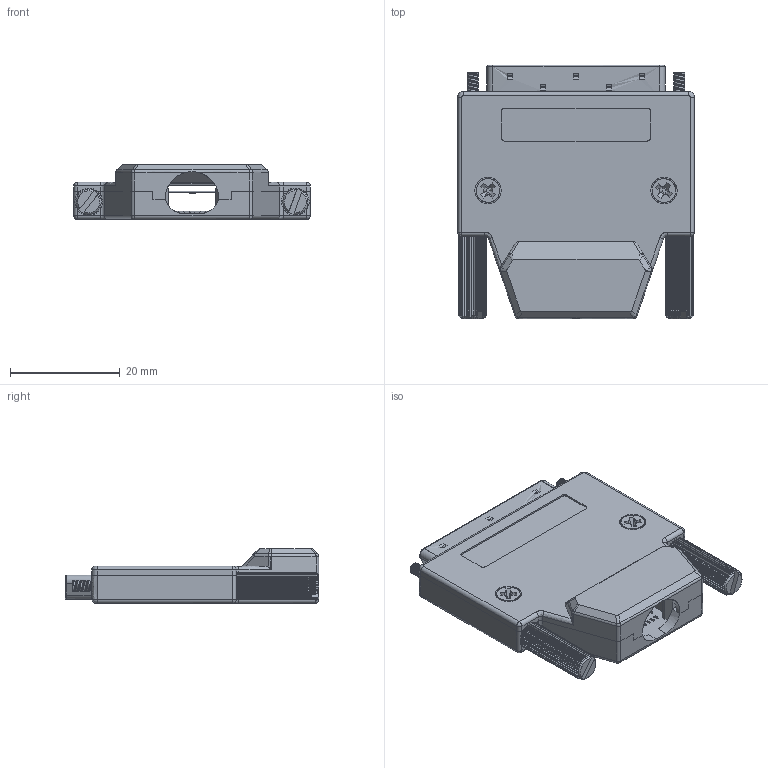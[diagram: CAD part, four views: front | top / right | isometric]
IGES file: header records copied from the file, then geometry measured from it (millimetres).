
Start section: SolidWorks IGES file using analytic representation for surfaces
Global section: file name: C:\temp\vhdci_conn.igs; native system: SolidWorks 2018; preprocessor: SolidWorks 2018; author: jbright; date: 220105.141228; units: millimetre
Bounding box: 43 x 46.07 x 10 mm (x, y, z)
Surface area: 7998 mm2 (no closed solid volume)
Topology: 0 solids, 0 shells, 651 faces, 5797 edges, 5800 vertices
Faces by surface type: bspline 651
